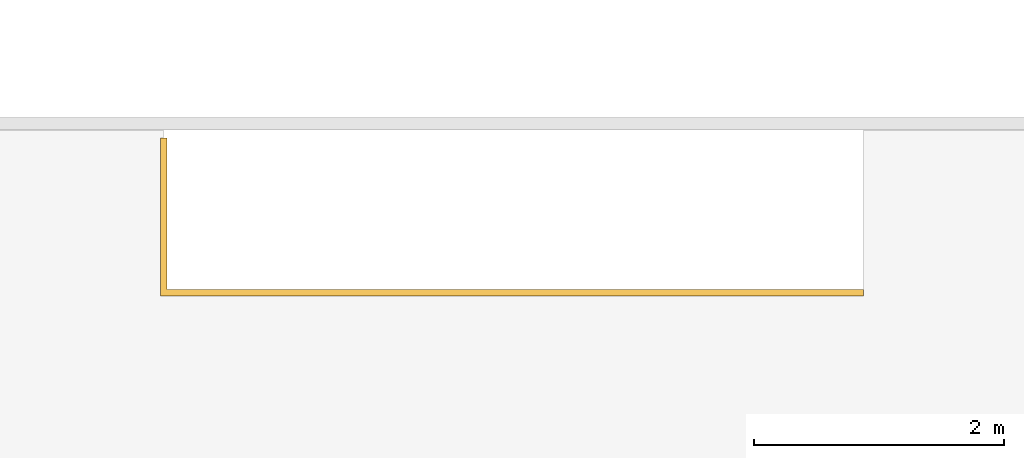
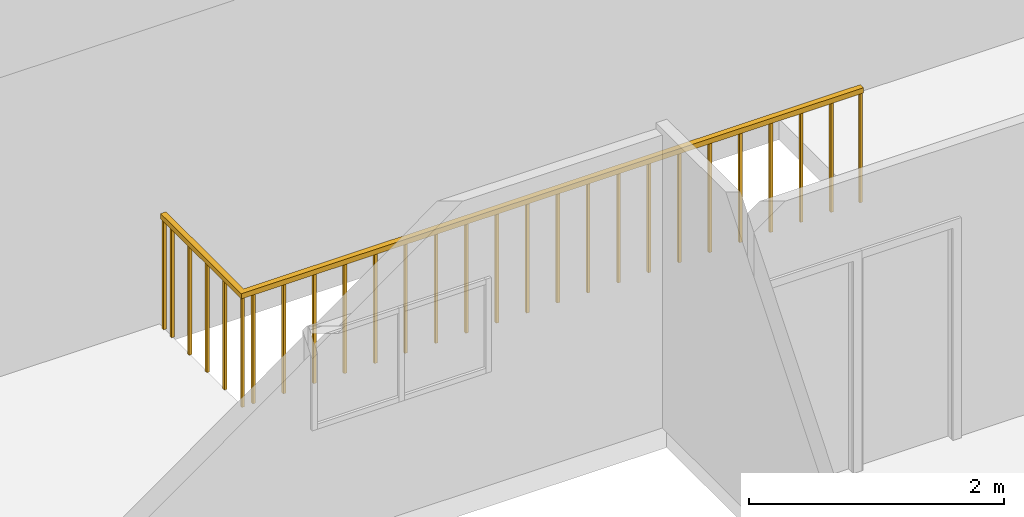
# One storey, part 13 of 14: 1 railing.
"""IFC2X3 building model written with IfcOpenShell, lengths in millimetres."""

from ifc_helpers import new_model, entity, si_unit, converted_unit, derived_unit, direction, frame, origin, place, context, subcontext, project, spatial, faceted_brep, element, save


model = new_model("IFC2X3")

# Units and contexts
model_context = context("Model", 3, precision=0.01, world=origin(), true_north=direction((4.05803320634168e-15, -1.0)))
body_context = subcontext(model_context, "Body", "Model", "MODEL_VIEW")
ifc_project = project(units=[si_unit("LENGTHUNIT", "METRE", prefix="MILLI"), si_unit("AREAUNIT", "SQUARE_METRE"), si_unit("VOLUMEUNIT", "CUBIC_METRE"), converted_unit("PLANEANGLEUNIT", "DEGREE", entity("IfcRatioMeasure", 0.0174532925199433), si_unit("PLANEANGLEUNIT", "RADIAN"), dimensions=[0, 0, 0, 0, 0, 0, 0]), si_unit("MASSUNIT", "GRAM", prefix="KILO"), derived_unit("MASSDENSITYUNIT", [(si_unit("MASSUNIT", "GRAM", prefix="KILO"), 1), (si_unit("LENGTHUNIT", "METRE"), -3)]), si_unit("TIMEUNIT", "SECOND"), si_unit("FREQUENCYUNIT", "HERTZ"), si_unit("THERMODYNAMICTEMPERATUREUNIT", "DEGREE_CELSIUS"), derived_unit("THERMALTRANSMITTANCEUNIT", [(si_unit("MASSUNIT", "GRAM", prefix="KILO"), 1), (si_unit("THERMODYNAMICTEMPERATUREUNIT", "KELVIN"), -1), (si_unit("TIMEUNIT", "SECOND"), -3)]), derived_unit("VOLUMETRICFLOWRATEUNIT", [(si_unit("LENGTHUNIT", "METRE"), 3), (si_unit("TIMEUNIT", "SECOND"), -1)]), si_unit("ELECTRICCURRENTUNIT", "AMPERE"), si_unit("ELECTRICVOLTAGEUNIT", "VOLT"), si_unit("POWERUNIT", "WATT"), si_unit("FORCEUNIT", "NEWTON", prefix="KILO"), si_unit("ILLUMINANCEUNIT", "LUX"), si_unit("LUMINOUSFLUXUNIT", "LUMEN"), si_unit("LUMINOUSINTENSITYUNIT", "CANDELA"), derived_unit("USERDEFINED", [(si_unit("MASSUNIT", "GRAM", prefix="KILO"), -1), (si_unit("LENGTHUNIT", "METRE"), -2), (si_unit("TIMEUNIT", "SECOND"), 3), (si_unit("LUMINOUSFLUXUNIT", "LUMEN"), 1)]), derived_unit("LINEARVELOCITYUNIT", [(si_unit("LENGTHUNIT", "METRE"), 1), (si_unit("TIMEUNIT", "SECOND"), -1)]), si_unit("PRESSUREUNIT", "PASCAL"), derived_unit("USERDEFINED", [(si_unit("LENGTHUNIT", "METRE"), -2), (si_unit("MASSUNIT", "GRAM", prefix="KILO"), 1), (si_unit("TIMEUNIT", "SECOND"), -2)])], contexts=[model_context])

# Site, building, storey
site_placement = place(None, frame((927466.849349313, 583801.882853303, 0.0), z_axis=(0.0, 0.0, 1.0), x_axis=(-1.0, 0.0, 0.0)))
site = spatial("IfcSite", under=ifc_project, at=site_placement, Name="Surface", CompositionType="ELEMENT")
building_placement = place(site_placement, origin())
building = spatial("IfcBuilding", under=site, at=building_placement, CompositionType="ELEMENT")
storey_placement = place(building_placement, frame((0.0, 0.0, 48170.0)))
storey = spatial("IfcBuildingStorey", under=building, at=storey_placement, Name="First floor", CompositionType="ELEMENT", Elevation=48170.0)

# Railing
railing_placement = place(storey_placement, frame((-112927.93727682, 12069.2777512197, 0.0)))
element("IfcRailing", 1, at=railing_placement, inside=storey, Name="Railing:1100mm", ObjectType="Railing:1100mm", PredefinedType="NOTDEFINED", context=body_context, shape_type="Brep", body=[
    faceted_brep([(5611.4427755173, 151.499999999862, 1050.0), (5611.4427755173, 151.499999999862, 0.0), (5586.44277551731, 151.499999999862, 0.0), (5586.44277551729, 151.499999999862, 1050.0), (5586.44277551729, 126.499999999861, 0.0), (5586.44277551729, 126.499999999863, 1050.0), (5611.44277551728, 126.499999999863, 0.0), (5611.4427755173, 126.499999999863, 1050.0)], [[[0, 1, 2, 3]], [[3, 2, 4, 5]], [[5, 4, 6, 7]], [[1, 0, 7, 6]], [[0, 3, 5, 7]], [[2, 1, 6, 4]]]),
    faceted_brep([(5611.4427755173, 426.49999999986, 1050.0), (5611.4427755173, 426.49999999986, 0.0), (5586.44277551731, 426.49999999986, 0.0), (5586.44277551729, 426.49999999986, 1050.0), (5586.44277551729, 401.499999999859, 0.0), (5586.44277551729, 401.499999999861, 1050.0), (5611.44277551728, 401.499999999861, 0.0), (5611.4427755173, 401.499999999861, 1050.0)], [[[0, 1, 2, 3]], [[3, 2, 4, 5]], [[5, 4, 6, 7]], [[1, 0, 7, 6]], [[0, 3, 5, 7]], [[2, 1, 6, 4]]]),
    faceted_brep([(5611.4427755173, 701.49999999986, 1050.0), (5611.4427755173, 701.49999999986, 0.0), (5586.44277551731, 701.49999999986, 0.0), (5586.44277551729, 701.49999999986, 1050.0), (5586.44277551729, 676.499999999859, 0.0), (5586.44277551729, 676.499999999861, 1050.0), (5611.44277551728, 676.499999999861, 0.0), (5611.4427755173, 676.499999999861, 1050.0)], [[[0, 1, 2, 3]], [[3, 2, 4, 5]], [[5, 4, 6, 7]], [[1, 0, 7, 6]], [[0, 3, 5, 7]], [[2, 1, 6, 4]]]),
    faceted_brep([(5611.4427755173, 976.49999999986, 1050.0), (5611.4427755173, 976.49999999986, 0.0), (5586.44277551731, 976.49999999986, 0.0), (5586.44277551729, 976.49999999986, 1050.0), (5586.44277551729, 951.499999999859, 0.0), (5586.44277551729, 951.499999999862, 1050.0), (5611.44277551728, 951.499999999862, 0.0), (5611.4427755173, 951.499999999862, 1050.0)], [[[0, 1, 2, 3]], [[3, 2, 4, 5]], [[5, 4, 6, 7]], [[1, 0, 7, 6]], [[0, 3, 5, 7]], [[2, 1, 6, 4]]]),
    faceted_brep([(5487.49999999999, 1251.49999999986, 1050.0), (5487.49999999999, 1251.49999999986, 0.0), (5487.49999999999, 1226.49999999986, 0.0), (5487.49999999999, 1226.49999999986, 1050.0), (5512.49999999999, 1226.49999999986, 0.0), (5512.5, 1226.49999999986, 1050.0), (5512.5, 1251.49999999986, 0.0), (5512.5, 1251.49999999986, 1050.0)], [[[0, 1, 2, 3]], [[3, 2, 4, 5]], [[5, 4, 6, 7]], [[1, 0, 7, 6]], [[0, 3, 5, 7]], [[2, 1, 6, 4]]]),
    faceted_brep([(5212.5, 1251.49999999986, 1050.0), (5212.5, 1251.49999999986, 0.0), (5212.5, 1226.49999999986, 0.0), (5212.5, 1226.49999999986, 1050.0), (5237.5, 1226.49999999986, 0.0), (5237.50000000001, 1226.49999999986, 1050.0), (5237.50000000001, 1251.49999999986, 0.0), (5237.50000000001, 1251.49999999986, 1050.0)], [[[0, 1, 2, 3]], [[3, 2, 4, 5]], [[5, 4, 6, 7]], [[1, 0, 7, 6]], [[0, 3, 5, 7]], [[2, 1, 6, 4]]]),
    faceted_brep([(4937.5, 1251.49999999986, 1050.0), (4937.5, 1251.49999999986, 0.0), (4937.5, 1226.49999999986, 0.0), (4937.5, 1226.49999999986, 1050.0), (4962.49999999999, 1226.49999999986, 0.0), (4962.50000000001, 1226.49999999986, 1050.0), (4962.50000000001, 1251.49999999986, 0.0), (4962.50000000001, 1251.49999999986, 1050.0)], [[[0, 1, 2, 3]], [[3, 2, 4, 5]], [[5, 4, 6, 7]], [[1, 0, 7, 6]], [[0, 3, 5, 7]], [[2, 1, 6, 4]]]),
    faceted_brep([(4662.49999999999, 1251.49999999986, 1050.0), (4662.49999999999, 1251.49999999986, 0.0), (4662.49999999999, 1226.49999999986, 0.0), (4662.49999999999, 1226.49999999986, 1050.0), (4687.49999999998, 1226.49999999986, 0.0), (4687.5, 1226.49999999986, 1050.0), (4687.5, 1251.49999999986, 0.0), (4687.5, 1251.49999999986, 1050.0)], [[[0, 1, 2, 3]], [[3, 2, 4, 5]], [[5, 4, 6, 7]], [[1, 0, 7, 6]], [[0, 3, 5, 7]], [[2, 1, 6, 4]]]),
    faceted_brep([(4387.5, 1251.49999999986, 1050.0), (4387.5, 1251.49999999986, 0.0), (4387.5, 1226.49999999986, 0.0), (4387.5, 1226.49999999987, 1050.0), (4412.49999999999, 1226.49999999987, 0.0), (4412.50000000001, 1226.49999999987, 1050.0), (4412.50000000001, 1251.49999999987, 0.0), (4412.50000000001, 1251.49999999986, 1050.0)], [[[0, 1, 2, 3]], [[3, 2, 4, 5]], [[5, 4, 6, 7]], [[1, 0, 7, 6]], [[0, 3, 5, 7]], [[2, 1, 6, 4]]]),
    faceted_brep([(4112.49999999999, 1251.49999999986, 1050.0), (4112.49999999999, 1251.49999999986, 0.0), (4112.49999999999, 1226.49999999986, 0.0), (4112.49999999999, 1226.49999999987, 1050.0), (4137.49999999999, 1226.49999999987, 0.0), (4137.5, 1226.49999999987, 1050.0), (4137.5, 1251.49999999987, 0.0), (4137.5, 1251.49999999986, 1050.0)], [[[0, 1, 2, 3]], [[3, 2, 4, 5]], [[5, 4, 6, 7]], [[1, 0, 7, 6]], [[0, 3, 5, 7]], [[2, 1, 6, 4]]]),
    faceted_brep([(3837.5, 1251.49999999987, 1050.0), (3837.5, 1251.49999999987, 0.0), (3837.5, 1226.49999999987, 0.0), (3837.5, 1226.49999999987, 1050.0), (3862.5, 1226.49999999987, 0.0), (3862.50000000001, 1226.49999999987, 1050.0), (3862.50000000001, 1251.49999999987, 0.0), (3862.50000000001, 1251.49999999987, 1050.0)], [[[0, 1, 2, 3]], [[3, 2, 4, 5]], [[5, 4, 6, 7]], [[1, 0, 7, 6]], [[0, 3, 5, 7]], [[2, 1, 6, 4]]]),
    faceted_brep([(3562.5, 1251.49999999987, 1050.0), (3562.5, 1251.49999999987, 0.0), (3562.5, 1226.49999999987, 0.0), (3562.5, 1226.49999999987, 1050.0), (3587.49999999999, 1226.49999999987, 0.0), (3587.50000000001, 1226.49999999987, 1050.0), (3587.50000000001, 1251.49999999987, 0.0), (3587.50000000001, 1251.49999999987, 1050.0)], [[[0, 1, 2, 3]], [[3, 2, 4, 5]], [[5, 4, 6, 7]], [[1, 0, 7, 6]], [[0, 3, 5, 7]], [[2, 1, 6, 4]]]),
    faceted_brep([(3287.49999999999, 1251.49999999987, 1050.0), (3287.49999999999, 1251.49999999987, 0.0), (3287.49999999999, 1226.49999999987, 0.0), (3287.49999999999, 1226.49999999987, 1050.0), (3312.49999999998, 1226.49999999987, 0.0), (3312.5, 1226.49999999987, 1050.0), (3312.5, 1251.49999999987, 0.0), (3312.5, 1251.49999999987, 1050.0)], [[[0, 1, 2, 3]], [[3, 2, 4, 5]], [[5, 4, 6, 7]], [[1, 0, 7, 6]], [[0, 3, 5, 7]], [[2, 1, 6, 4]]]),
    faceted_brep([(3012.5, 1251.49999999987, 1050.0), (3012.5, 1251.49999999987, 0.0), (3012.5, 1226.49999999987, 0.0), (3012.5, 1226.49999999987, 1050.0), (3037.49999999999, 1226.49999999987, 0.0), (3037.50000000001, 1226.49999999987, 1050.0), (3037.50000000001, 1251.49999999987, 0.0), (3037.50000000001, 1251.49999999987, 1050.0)], [[[0, 1, 2, 3]], [[3, 2, 4, 5]], [[5, 4, 6, 7]], [[1, 0, 7, 6]], [[0, 3, 5, 7]], [[2, 1, 6, 4]]]),
    faceted_brep([(2737.49999999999, 1251.49999999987, 1050.0), (2737.49999999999, 1251.49999999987, 0.0), (2737.49999999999, 1226.49999999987, 0.0), (2737.49999999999, 1226.49999999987, 1050.0), (2762.49999999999, 1226.49999999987, 0.0), (2762.5, 1226.49999999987, 1050.0), (2762.5, 1251.49999999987, 0.0), (2762.5, 1251.49999999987, 1050.0)], [[[0, 1, 2, 3]], [[3, 2, 4, 5]], [[5, 4, 6, 7]], [[1, 0, 7, 6]], [[0, 3, 5, 7]], [[2, 1, 6, 4]]]),
    faceted_brep([(2462.5, 1251.49999999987, 1050.0), (2462.5, 1251.49999999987, 0.0), (2462.5, 1226.49999999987, 0.0), (2462.5, 1226.49999999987, 1050.0), (2487.5, 1226.49999999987, 0.0), (2487.50000000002, 1226.49999999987, 1050.0), (2487.50000000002, 1251.49999999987, 0.0), (2487.50000000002, 1251.49999999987, 1050.0)], [[[0, 1, 2, 3]], [[3, 2, 4, 5]], [[5, 4, 6, 7]], [[1, 0, 7, 6]], [[0, 3, 5, 7]], [[2, 1, 6, 4]]]),
    faceted_brep([(2187.5, 1251.49999999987, 1050.0), (2187.5, 1251.49999999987, 0.0), (2187.5, 1226.49999999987, 0.0), (2187.5, 1226.49999999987, 1050.0), (2212.49999999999, 1226.49999999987, 0.0), (2212.50000000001, 1226.49999999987, 1050.0), (2212.50000000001, 1251.49999999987, 0.0), (2212.50000000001, 1251.49999999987, 1050.0)], [[[0, 1, 2, 3]], [[3, 2, 4, 5]], [[5, 4, 6, 7]], [[1, 0, 7, 6]], [[0, 3, 5, 7]], [[2, 1, 6, 4]]]),
    faceted_brep([(1912.49999999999, 1251.49999999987, 1050.0), (1912.49999999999, 1251.49999999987, 0.0), (1912.49999999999, 1226.49999999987, 0.0), (1912.49999999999, 1226.49999999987, 1050.0), (1937.49999999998, 1226.49999999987, 0.0), (1937.5, 1226.49999999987, 1050.0), (1937.5, 1251.49999999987, 0.0), (1937.5, 1251.49999999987, 1050.0)], [[[0, 1, 2, 3]], [[3, 2, 4, 5]], [[5, 4, 6, 7]], [[1, 0, 7, 6]], [[0, 3, 5, 7]], [[2, 1, 6, 4]]]),
    faceted_brep([(1637.5, 1251.49999999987, 1050.0), (1637.5, 1251.49999999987, 0.0), (1637.5, 1226.49999999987, 0.0), (1637.5, 1226.49999999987, 1050.0), (1662.49999999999, 1226.49999999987, 0.0), (1662.50000000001, 1226.49999999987, 1050.0), (1662.50000000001, 1251.49999999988, 0.0), (1662.50000000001, 1251.49999999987, 1050.0)], [[[0, 1, 2, 3]], [[3, 2, 4, 5]], [[5, 4, 6, 7]], [[1, 0, 7, 6]], [[0, 3, 5, 7]], [[2, 1, 6, 4]]]),
    faceted_brep([(1362.49999999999, 1251.49999999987, 1050.0), (1362.49999999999, 1251.49999999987, 0.0), (1362.49999999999, 1226.49999999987, 0.0), (1362.49999999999, 1226.49999999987, 1050.0), (1387.49999999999, 1226.49999999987, 0.0), (1387.50000000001, 1226.49999999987, 1050.0), (1387.50000000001, 1251.49999999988, 0.0), (1387.50000000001, 1251.49999999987, 1050.0)], [[[0, 1, 2, 3]], [[3, 2, 4, 5]], [[5, 4, 6, 7]], [[1, 0, 7, 6]], [[0, 3, 5, 7]], [[2, 1, 6, 4]]]),
    faceted_brep([(1087.49999999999, 1251.49999999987, 1050.0), (1087.49999999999, 1251.49999999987, 0.0), (1087.49999999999, 1226.49999999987, 0.0), (1087.49999999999, 1226.49999999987, 1050.0), (1112.49999999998, 1226.49999999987, 0.0), (1112.5, 1226.49999999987, 1050.0), (1112.5, 1251.49999999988, 0.0), (1112.5, 1251.49999999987, 1050.0)], [[[0, 1, 2, 3]], [[3, 2, 4, 5]], [[5, 4, 6, 7]], [[1, 0, 7, 6]], [[0, 3, 5, 7]], [[2, 1, 6, 4]]]),
    faceted_brep([(812.499999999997, 1251.49999999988, 1050.0), (812.499999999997, 1251.49999999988, 0.0), (812.499999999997, 1226.49999999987, 0.0), (812.499999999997, 1226.49999999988, 1050.0), (837.499999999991, 1226.49999999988, 0.0), (837.500000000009, 1226.49999999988, 1050.0), (837.500000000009, 1251.49999999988, 0.0), (837.500000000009, 1251.49999999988, 1050.0)], [[[0, 1, 2, 3]], [[3, 2, 4, 5]], [[5, 4, 6, 7]], [[1, 0, 7, 6]], [[0, 3, 5, 7]], [[2, 1, 6, 4]]]),
    faceted_brep([(537.49999999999, 1251.49999999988, 1050.0), (537.49999999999, 1251.49999999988, 0.0), (537.49999999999, 1226.49999999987, 0.0), (537.49999999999, 1226.49999999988, 1050.0), (562.499999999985, 1226.49999999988, 0.0), (562.500000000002, 1226.49999999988, 1050.0), (562.500000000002, 1251.49999999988, 0.0), (562.500000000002, 1251.49999999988, 1050.0)], [[[0, 1, 2, 3]], [[3, 2, 4, 5]], [[5, 4, 6, 7]], [[1, 0, 7, 6]], [[0, 3, 5, 7]], [[2, 1, 6, 4]]]),
    faceted_brep([(262.500000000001, 1251.49999999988, 1050.0), (262.500000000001, 1251.49999999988, 0.0), (262.500000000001, 1226.49999999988, 0.0), (262.500000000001, 1226.49999999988, 1050.0), (287.499999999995, 1226.49999999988, 0.0), (287.500000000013, 1226.49999999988, 1050.0), (287.500000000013, 1251.49999999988, 0.0), (287.500000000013, 1251.49999999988, 1050.0)], [[[0, 1, 2, 3]], [[3, 2, 4, 5]], [[5, 4, 6, 7]], [[1, 0, 7, 6]], [[0, 3, 5, 7]], [[2, 1, 6, 4]]]),
    faceted_brep([(5586.44277551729, 1251.49999999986, 1050.0), (5586.44277551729, 1251.49999999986, 0.0), (5586.44277551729, 1226.49999999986, 0.0), (5586.44277551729, 1226.49999999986, 1050.0), (5611.44277551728, 1226.49999999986, 0.0), (5611.4427755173, 1226.49999999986, 1050.0), (5611.4427755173, 1251.49999999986, 0.0), (5611.4427755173, 1251.49999999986, 1050.0)], [[[0, 1, 2, 3]], [[3, 2, 4, 5]], [[5, 4, 6, 7]], [[1, 0, 7, 6]], [[0, 3, 5, 7]], [[2, 1, 6, 4]]]),
    faceted_brep([(5611.4427755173, 25.0, 1050.0), (5611.4427755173, 25.0, 0.0), (5586.44277551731, 25.0, 0.0), (5586.44277551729, 25.0, 1050.0), (5586.44277551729, 0.0, 0.0), (5586.44277551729, 0.0, 1050.0), (5611.44277551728, 0.0, 0.0), (5611.4427755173, 0.0, 1050.0)], [[[0, 1, 2, 3]], [[3, 2, 4, 5]], [[5, 4, 6, 7]], [[1, 0, 7, 6]], [[0, 3, 5, 7]], [[2, 1, 6, 4]]]),
    faceted_brep([(0.0, 1251.49999999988, 1050.0), (0.0, 1251.49999999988, 0.0), (0.0, 1226.49999999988, 0.0), (0.0, 1226.49999999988, 1050.0), (25.0, 1226.49999999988, 0.0), (25.0, 1226.49999999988, 1050.0), (25.0, 1251.49999999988, 0.0), (25.0, 1251.49999999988, 1050.0)], [[[0, 1, 2, 3]], [[3, 2, 4, 5]], [[5, 4, 6, 7]], [[1, 0, 7, 6]], [[0, 3, 5, 7]], [[2, 1, 6, 4]]]),
    faceted_brep([(0.0, 1264.0, 1100.0), (0.0, 1264.0, 1050.0), (0.0, 1214.0, 1050.0), (0.0, 1214.0, 1100.0), (5623.94277551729, 1264.0, 1100.0), (5623.94277551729, 1264.0, 1050.0), (5573.94277551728, 1214.0, 1050.0), (5573.94277551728, 1214.0, 1100.0), (5623.94277551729, 0.0, 1100.0), (5573.94277551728, 0.0, 1100.0), (5573.94277551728, 0.0, 1050.0), (5623.94277551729, 0.0, 1050.0)], [[[0, 1, 2, 3]], [[1, 0, 4, 5]], [[2, 1, 5, 6]], [[3, 2, 6, 7]], [[0, 3, 7, 4]], [[8, 9, 10, 11]], [[5, 4, 8, 11]], [[6, 5, 11, 10]], [[7, 6, 10, 9]], [[4, 7, 9, 8]]]),
])

save(model, "model.ifc")
